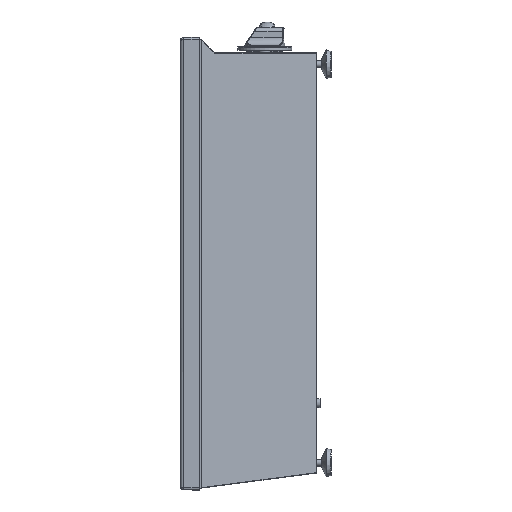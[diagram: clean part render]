
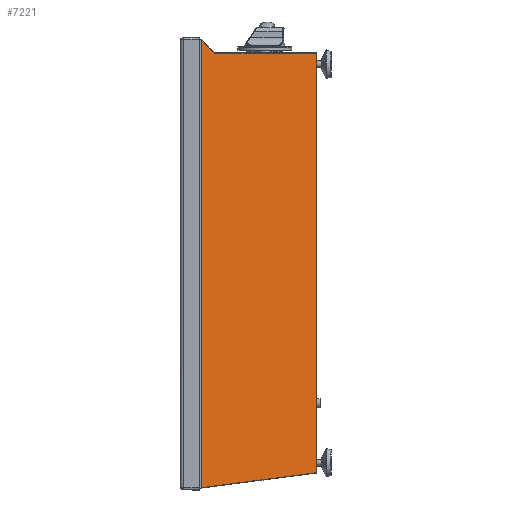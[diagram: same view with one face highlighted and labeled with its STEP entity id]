
A CAD part, left-side view. The second image highlights one B-rep face of the part: STEP entity #7221.
In plain terms, the highlighted planar face has unit normal (-0.992, -0.13, 0) by its records, which use the part's own axes.
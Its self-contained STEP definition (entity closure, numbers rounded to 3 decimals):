
#894 = CARTESIAN_POINT ( 'NONE',  ( -297.449, -24.388, -296.953 ) ) ;
#2675 = DIRECTION ( 'NONE',  ( 0., 0., -1. ) ) ;
#2826 = ORIENTED_EDGE ( 'NONE', *, *, #22864, .T. ) ;
#4318 = ORIENTED_EDGE ( 'NONE', *, *, #13505, .T. ) ;
#4689 = CARTESIAN_POINT ( 'NONE',  ( -295.292, -40.833, 280.025 ) ) ;
#4987 =( BOUNDED_CURVE ( )  B_SPLINE_CURVE ( 3, ( #21976, #19118, #11003, #4689 ),
 .UNSPECIFIED., .F., .F. ) 
 B_SPLINE_CURVE_WITH_KNOTS ( ( 4, 4 ),
 ( 4.712, 5.498 ),
 .UNSPECIFIED. ) 
 CURVE ( )  GEOMETRIC_REPRESENTATION_ITEM ( )  RATIONAL_B_SPLINE_CURVE ( ( 1., 0.949, 0.949, 1. ) ) 
 REPRESENTATION_ITEM ( '' )  );
#5089 = DIRECTION ( 'NONE',  ( 0., 0., 1. ) ) ;
#5296 = PLANE ( 'NONE',  #17793 ) ;
#6146 = DIRECTION ( 'NONE',  ( 0.992, 0.13, 0. ) ) ;
#6338 = EDGE_CURVE ( 'NONE', #23800, #33712, #4987, .T. ) ;
#6639 = CARTESIAN_POINT ( 'NONE',  ( -297.5, -24., -296.99 ) ) ;
#7119 = CARTESIAN_POINT ( 'NONE',  ( -297.307, -25.469, 295.389 ) ) ;
#7221 = ADVANCED_FACE ( 'NONE', ( #33737 ), #5296, .F. ) ;
#7472 = VECTOR ( 'NONE', #32866, 1000. ) ;
#7477 = CARTESIAN_POINT ( 'NONE',  ( -297.5, -24., -296.99 ) ) ;
#8946 = CARTESIAN_POINT ( 'NONE',  ( -277.5, -176.5, 279. ) ) ;
#9251 = VERTEX_POINT ( 'NONE', #8946 ) ;
#10322 = EDGE_CURVE ( 'NONE', #33712, #10893, #11081, .T. ) ;
#10893 = VERTEX_POINT ( 'NONE', #7119 ) ;
#11003 = CARTESIAN_POINT ( 'NONE',  ( -295.205, -41.498, 279.36 ) ) ;
#11081 = LINE ( 'NONE', #24773, #7472 ) ;
#12799 = VERTEX_POINT ( 'NONE', #16929 ) ;
#13142 = CARTESIAN_POINT ( 'NONE',  ( -297.307, -25.469, 295.389 ) ) ;
#13481 = VERTEX_POINT ( 'NONE', #29191 ) ;
#13505 = EDGE_CURVE ( 'NONE', #18962, #25588, #32239, .T. ) ;
#14025 = VECTOR ( 'NONE', #2675, 1000. ) ;
#14168 = ORIENTED_EDGE ( 'NONE', *, *, #28193, .T. ) ;
#15741 = CARTESIAN_POINT ( 'NONE',  ( -277.5, -176.5, -297.5 ) ) ;
#16010 = CARTESIAN_POINT ( 'NONE',  ( -297.5, -24., -294.475 ) ) ;
#16082 = LINE ( 'NONE', #32644, #25764 ) ;
#16929 = CARTESIAN_POINT ( 'NONE',  ( -297.449, -24.388, -296.953 ) ) ;
#17489 = ORIENTED_EDGE ( 'NONE', *, *, #17676, .T. ) ;
#17676 = EDGE_CURVE ( 'NONE', #10893, #18962, #25951, .T. ) ;
#17793 = AXIS2_PLACEMENT_3D ( 'NONE', #28319, #6146, #27970 ) ;
#18962 = VERTEX_POINT ( 'NONE', #26462 ) ;
#19118 = CARTESIAN_POINT ( 'NONE',  ( -295.091, -42.367, 279. ) ) ;
#21334 = DIRECTION ( 'NONE',  ( -0.13, 0.992, 0. ) ) ;
#21976 = CARTESIAN_POINT ( 'NONE',  ( -294.968, -43.308, 279. ) ) ;
#22680 = EDGE_LOOP ( 'NONE', ( #4318, #34363, #2826, #14168, #32463, #24085, #24969, #17489 ) ) ;
#22864 = EDGE_CURVE ( 'NONE', #12799, #13481, #16082, .T. ) ;
#23800 = VERTEX_POINT ( 'NONE', #25421 ) ;
#24040 = LINE ( 'NONE', #15741, #30603 ) ;
#24085 = ORIENTED_EDGE ( 'NONE', *, *, #6338, .T. ) ;
#24373 = DIRECTION ( 'NONE',  ( 0.129, -0.983, 0.129 ) ) ;
#24773 = CARTESIAN_POINT ( 'NONE',  ( -248.773, -395.545, -74.687 ) ) ;
#24969 = ORIENTED_EDGE ( 'NONE', *, *, #10322, .T. ) ;
#25421 = CARTESIAN_POINT ( 'NONE',  ( -294.968, -43.308, 279. ) ) ;
#25588 = VERTEX_POINT ( 'NONE', #7477 ) ;
#25764 = VECTOR ( 'NONE', #24373, 1000. ) ;
#25951 =( BOUNDED_CURVE ( )  B_SPLINE_CURVE ( 3, ( #13142, #32954, #29730, #27384 ),
 .UNSPECIFIED., .F., .F. ) 
 B_SPLINE_CURVE_WITH_KNOTS ( ( 4, 4 ),
 ( 3.927, 4.257 ),
 .UNSPECIFIED. ) 
 CURVE ( )  GEOMETRIC_REPRESENTATION_ITEM ( )  RATIONAL_B_SPLINE_CURVE ( ( 1., 0.991, 0.991, 1. ) ) 
 REPRESENTATION_ITEM ( '' )  );
#26462 = CARTESIAN_POINT ( 'NONE',  ( -297.5, -24., 296.439 ) ) ;
#26721 = LINE ( 'NONE', #27265, #32184 ) ;
#27265 = CARTESIAN_POINT ( 'NONE',  ( -277.5, -176.5, 279. ) ) ;
#27384 = CARTESIAN_POINT ( 'NONE',  ( -297.5, -24., 296.439 ) ) ;
#27970 = DIRECTION ( 'NONE',  ( -0.13, 0.992, 0. ) ) ;
#28193 = EDGE_CURVE ( 'NONE', #13481, #9251, #24040, .T. ) ;
#28319 = CARTESIAN_POINT ( 'NONE',  ( -277.5, -176.5, -297.5 ) ) ;
#28458 = CARTESIAN_POINT ( 'NONE',  ( -297.466, -24.259, -296.97 ) ) ;
#29191 = CARTESIAN_POINT ( 'NONE',  ( -277.5, -176.5, -277.004 ) ) ;
#29730 = CARTESIAN_POINT ( 'NONE',  ( -297.428, -24.545, 296.172 ) ) ;
#30596 = EDGE_CURVE ( 'NONE', #25588, #12799, #34998, .T. ) ;
#30603 = VECTOR ( 'NONE', #5089, 1000. ) ;
#32184 = VECTOR ( 'NONE', #21334, 1000. ) ;
#32239 = LINE ( 'NONE', #16010, #14025 ) ;
#32463 = ORIENTED_EDGE ( 'NONE', *, *, #34247, .T. ) ;
#32644 = CARTESIAN_POINT ( 'NONE',  ( -277.841, -173.901, -277.345 ) ) ;
#32866 = DIRECTION ( 'NONE',  ( -0.092, 0.704, 0.704 ) ) ;
#32954 = CARTESIAN_POINT ( 'NONE',  ( -297.364, -25.039, 295.819 ) ) ;
#33509 = CARTESIAN_POINT ( 'NONE',  ( -295.292, -40.833, 280.025 ) ) ;
#33695 = CARTESIAN_POINT ( 'NONE',  ( -297.483, -24.13, -296.983 ) ) ;
#33712 = VERTEX_POINT ( 'NONE', #33509 ) ;
#33737 = FACE_OUTER_BOUND ( 'NONE', #22680, .T. ) ;
#34247 = EDGE_CURVE ( 'NONE', #9251, #23800, #26721, .T. ) ;
#34363 = ORIENTED_EDGE ( 'NONE', *, *, #30596, .T. ) ;
#34998 =( BOUNDED_CURVE ( )  B_SPLINE_CURVE ( 3, ( #6639, #33695, #28458, #894 ),
 .UNSPECIFIED., .F., .F. ) 
 B_SPLINE_CURVE_WITH_KNOTS ( ( 4, 4 ),
 ( 1.63, 1.701 ),
 .UNSPECIFIED. ) 
 CURVE ( )  GEOMETRIC_REPRESENTATION_ITEM ( )  RATIONAL_B_SPLINE_CURVE ( ( 1., 1., 1., 1. ) ) 
 REPRESENTATION_ITEM ( '' )  );
